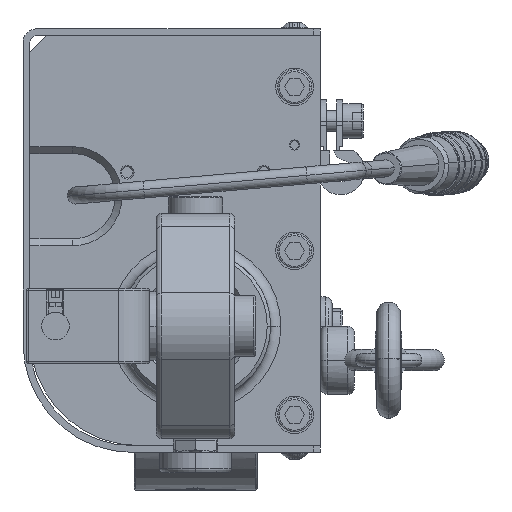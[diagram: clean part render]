
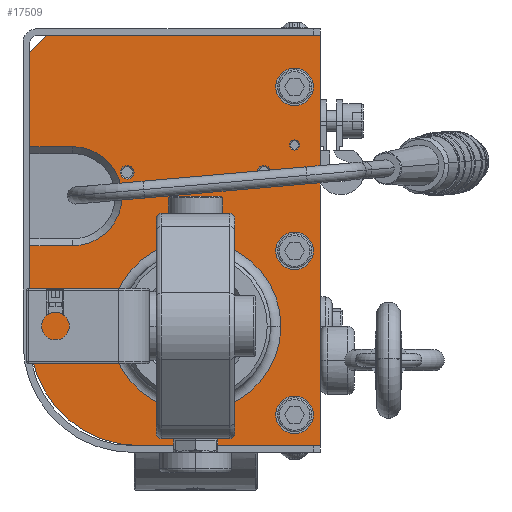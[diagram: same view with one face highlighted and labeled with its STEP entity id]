
A CAD part, left-side view. The second image highlights one B-rep face of the part: STEP entity #17509.
In plain terms, the highlighted planar face has unit normal (-1, 0, 0) as drawn and (0, 1, 0) by its records, which use the part's own axes.
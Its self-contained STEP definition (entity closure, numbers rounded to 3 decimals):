
#16222=CARTESIAN_POINT('',(-16.5,60.,3.));
#16223=DIRECTION('',(0.,-1.,0.));
#16224=DIRECTION('',(0.,0.,1.));
#16225=AXIS2_PLACEMENT_3D('',#16222,#16223,#16224);
#16227=DIRECTION('',(0.,0.,-1.));
#16228=VECTOR('',#16227,26.5);
#16229=CARTESIAN_POINT('',(-48.5,60.,3.));
#16230=LINE('',#16229,#16228);
#16231=DIRECTION('',(1.,0.,0.));
#16232=VECTOR('',#16231,12.5);
#16233=CARTESIAN_POINT('',(-48.5,60.,-23.5));
#16234=LINE('',#16233,#16232);
#16235=CARTESIAN_POINT('',(-36.,60.,-38.));
#16236=DIRECTION('',(0.,1.,0.));
#16237=DIRECTION('',(0.,0.,1.));
#16238=AXIS2_PLACEMENT_3D('',#16235,#16236,#16237);
#16240=DIRECTION('',(-1.,0.,0.));
#16241=VECTOR('',#16240,12.5);
#16242=CARTESIAN_POINT('',(-36.,60.,
-52.5));
#16243=LINE('',#16242,#16241);
#16244=DIRECTION('',(0.,0.,-1.));
#16245=VECTOR('',#16244,27.5);
#16246=CARTESIAN_POINT('',(-48.5,60.,-52.5));
#16247=LINE('',#16246,#16245);
#16248=DIRECTION('',(0.707,0.,-0.707));
#16249=VECTOR('',#16248,7.071);
#16250=CARTESIAN_POINT('',(-48.5,60.,-80.));
#16251=LINE('',#16250,#16249);
#16252=DIRECTION('',(1.,0.,0.));
#16253=VECTOR('',#16252,80.);
#16254=CARTESIAN_POINT('',(-43.5,60.,-85.));
#16255=LINE('',#16254,#16253);
#16256=DIRECTION('',(0.,0.,1.));
#16257=VECTOR('',#16256,120.);
#16258=CARTESIAN_POINT('',(36.5,60.,-85.));
#16259=LINE('',#16258,#16257);
#16260=DIRECTION('',(-1.,0.,0.));
#16261=VECTOR('',#16260,53.);
#16262=CARTESIAN_POINT('',(36.5,60.,35.));
#16263=LINE('',#16262,#16261);
#16264=CARTESIAN_POINT('',(0.,60.,0.));
#16265=DIRECTION('',(0.,1.,0.));
#16266=DIRECTION('',(1.,0.,-0.001));
#16267=AXIS2_PLACEMENT_3D('',#16264,#16265,#16266);
#16269=CARTESIAN_POINT('',(0.,60.,0.));
#16270=DIRECTION('',(0.,1.,0.));
#16271=DIRECTION('',(-1.,0.,0.001));
#16272=AXIS2_PLACEMENT_3D('',#16269,#16270,#16271);
#16274=CARTESIAN_POINT('',(29.,60.,-70.));
#16275=DIRECTION('',(0.,1.,0.));
#16276=DIRECTION('',(0.,0.,-1.));
#16277=AXIS2_PLACEMENT_3D('',#16274,#16275,#16276);
#16279=CARTESIAN_POINT('',(29.,60.,-70.));
#16280=DIRECTION('',(0.,1.,0.));
#16281=DIRECTION('',(0.,0.,1.));
#16282=AXIS2_PLACEMENT_3D('',#16279,#16280,#16281);
#16284=CARTESIAN_POINT('',(29.,60.,-22.));
#16285=DIRECTION('',(0.,1.,0.));
#16286=DIRECTION('',(0.,0.,-1.));
#16287=AXIS2_PLACEMENT_3D('',#16284,#16285,#16286);
#16289=CARTESIAN_POINT('',(29.,60.,-22.));
#16290=DIRECTION('',(0.,1.,0.));
#16291=DIRECTION('',(0.,0.,1.));
#16292=AXIS2_PLACEMENT_3D('',#16289,#16290,#16291);
#16294=CARTESIAN_POINT('',(29.,60.,26.));
#16295=DIRECTION('',(0.,1.,0.));
#16296=DIRECTION('',(0.,0.,-1.));
#16297=AXIS2_PLACEMENT_3D('',#16294,#16295,#16296);
#16299=CARTESIAN_POINT('',(29.,60.,26.));
#16300=DIRECTION('',(0.,1.,0.));
#16301=DIRECTION('',(0.,0.,1.));
#16302=AXIS2_PLACEMENT_3D('',#16299,#16300,#16301);
#16304=CARTESIAN_POINT('',(29.,60.,-43.));
#16305=DIRECTION('',(0.,1.,0.));
#16306=DIRECTION('',(1.,0.,0.));
#16307=AXIS2_PLACEMENT_3D('',#16304,#16305,#16306);
#16309=CARTESIAN_POINT('',(29.,60.,-43.));
#16310=DIRECTION('',(0.,1.,0.));
#16311=DIRECTION('',(-1.,0.,0.));
#16312=AXIS2_PLACEMENT_3D('',#16309,#16310,#16311);
#16314=CARTESIAN_POINT('',(29.,60.,-53.));
#16315=DIRECTION('',(0.,1.,0.));
#16316=DIRECTION('',(1.,0.,0.));
#16317=AXIS2_PLACEMENT_3D('',#16314,#16315,#16316);
#16319=CARTESIAN_POINT('',(29.,60.,-53.));
#16320=DIRECTION('',(0.,1.,0.));
#16321=DIRECTION('',(-1.,0.,0.));
#16322=AXIS2_PLACEMENT_3D('',#16319,#16320,#16321);
#16324=CARTESIAN_POINT('',(20.,60.,-45.));
#16325=DIRECTION('',(0.,1.,0.));
#16326=DIRECTION('',(1.,0.,0.));
#16327=AXIS2_PLACEMENT_3D('',#16324,#16325,#16326);
#16329=CARTESIAN_POINT('',(20.,60.,-45.));
#16330=DIRECTION('',(0.,1.,0.));
#16331=DIRECTION('',(-1.,0.,0.));
#16332=AXIS2_PLACEMENT_3D('',#16329,#16330,#16331);
#16334=CARTESIAN_POINT('',(-20.,60.,-45.));
#16335=DIRECTION('',(0.,1.,0.));
#16336=DIRECTION('',(1.,0.,0.));
#16337=AXIS2_PLACEMENT_3D('',#16334,#16335,#16336);
#16339=CARTESIAN_POINT('',(-20.,60.,-45.));
#16340=DIRECTION('',(0.,1.,0.));
#16341=DIRECTION('',(-1.,0.,0.));
#16342=AXIS2_PLACEMENT_3D('',#16339,#16340,#16341);
#16446=CARTESIAN_POINT('',(0.,60.,0.));
#16447=DIRECTION('',(0.,-1.,0.));
#16448=DIRECTION('',(-1.,0.,0.001));
#16449=AXIS2_PLACEMENT_3D('',#16446,#16447,#16448);
#16466=CARTESIAN_POINT('',(0.,60.,0.));
#16467=DIRECTION('',(0.,-1.,0.));
#16468=DIRECTION('',(1.,0.,-0.001));
#16469=AXIS2_PLACEMENT_3D('',#16466,#16467,#16468);
#17086=CARTESIAN_POINT('',(-16.5,60.,35.));
#17087=VERTEX_POINT('',#17086);
#17088=CARTESIAN_POINT('',(36.5,60.,35.));
#17089=VERTEX_POINT('',#17088);
#17181=CARTESIAN_POINT('',(-25.,60.,0.015));
#17182=CARTESIAN_POINT('',(24.996,60.,0.447));
#17183=VERTEX_POINT('',#17181);
#17184=VERTEX_POINT('',#17182);
#17185=CARTESIAN_POINT('',(25.,60.,-0.015));
#17186=VERTEX_POINT('',#17185);
#17187=CARTESIAN_POINT('',(-48.5,60.,3.));
#17188=VERTEX_POINT('',#17187);
#17189=CARTESIAN_POINT('',(-48.5,60.,-23.5));
#17190=VERTEX_POINT('',#17189);
#17191=CARTESIAN_POINT('',(-36.,60.,
-23.5));
#17192=VERTEX_POINT('',#17191);
#17193=CARTESIAN_POINT('',(-36.,60.,-52.5));
#17194=VERTEX_POINT('',#17193);
#17195=CARTESIAN_POINT('',(-48.5,60.,-52.5));
#17196=VERTEX_POINT('',#17195);
#17197=CARTESIAN_POINT('',(-48.5,60.,-80.));
#17198=VERTEX_POINT('',#17197);
#17199=CARTESIAN_POINT('',(-43.5,60.,-85.));
#17200=VERTEX_POINT('',#17199);
#17201=CARTESIAN_POINT('',(36.5,60.,-85.));
#17202=VERTEX_POINT('',#17201);
#17203=CARTESIAN_POINT('',(-24.996,60.,-0.447));
#17204=VERTEX_POINT('',#17203);
#17205=CARTESIAN_POINT('',(29.,60.,-75.5));
#17206=CARTESIAN_POINT('',(29.,60.,-64.5));
#17207=VERTEX_POINT('',#17205);
#17208=VERTEX_POINT('',#17206);
#17209=CARTESIAN_POINT('',(29.,60.,-27.5));
#17210=CARTESIAN_POINT('',(29.,60.,-16.5));
#17211=VERTEX_POINT('',#17209);
#17212=VERTEX_POINT('',#17210);
#17213=CARTESIAN_POINT('',(29.,60.,20.5));
#17214=CARTESIAN_POINT('',(29.,60.,31.5));
#17215=VERTEX_POINT('',#17213);
#17216=VERTEX_POINT('',#17214);
#17217=CARTESIAN_POINT('',(30.5,60.,-43.));
#17218=CARTESIAN_POINT('',(27.5,60.,-43.));
#17219=VERTEX_POINT('',#17217);
#17220=VERTEX_POINT('',#17218);
#17221=CARTESIAN_POINT('',(30.5,60.,-53.));
#17222=CARTESIAN_POINT('',(27.5,60.,-53.));
#17223=VERTEX_POINT('',#17221);
#17224=VERTEX_POINT('',#17222);
#17225=CARTESIAN_POINT('',(22.,60.,-45.));
#17226=CARTESIAN_POINT('',(18.,60.,-45.));
#17227=VERTEX_POINT('',#17225);
#17228=VERTEX_POINT('',#17226);
#17229=CARTESIAN_POINT('',(-18.,60.,-45.));
#17230=CARTESIAN_POINT('',(-22.,60.,-45.));
#17231=VERTEX_POINT('',#17229);
#17232=VERTEX_POINT('',#17230);
#17432=CARTESIAN_POINT('',(0.,60.,0.));
#17433=DIRECTION('',(0.,1.,0.));
#17434=DIRECTION('',(1.,0.,0.));
#17435=AXIS2_PLACEMENT_3D('',#17432,#17433,#17434);
#17436=PLANE('',#17435);
#17438=ORIENTED_EDGE('',*,*,#17437,.T.);
#17440=ORIENTED_EDGE('',*,*,#17439,.T.);
#17442=ORIENTED_EDGE('',*,*,#17441,.T.);
#17444=ORIENTED_EDGE('',*,*,#17443,.T.);
#17446=ORIENTED_EDGE('',*,*,#17445,.T.);
#17448=ORIENTED_EDGE('',*,*,#17447,.T.);
#17450=ORIENTED_EDGE('',*,*,#17449,.T.);
#17452=ORIENTED_EDGE('',*,*,#17451,.T.);
#17453=ORIENTED_EDGE('',*,*,#17425,.T.);
#17454=ORIENTED_EDGE('',*,*,#17324,.T.);
#17455=EDGE_LOOP('',(#17438,#17440,#17442,#17444,#17446,#17448,#17450,#17452,
#17453,#17454));
#17456=FACE_OUTER_BOUND('',#17455,.F.);
#17458=ORIENTED_EDGE('',*,*,#17457,.T.);
#17460=ORIENTED_EDGE('',*,*,#17459,.F.);
#17462=ORIENTED_EDGE('',*,*,#17461,.T.);
#17464=ORIENTED_EDGE('',*,*,#17463,.F.);
#17465=EDGE_LOOP('',(#17458,#17460,#17462,#17464));
#17466=FACE_BOUND('',#17465,.F.);
#17468=ORIENTED_EDGE('',*,*,#17467,.T.);
#17470=ORIENTED_EDGE('',*,*,#17469,.T.);
#17471=EDGE_LOOP('',(#17468,#17470));
#17472=FACE_BOUND('',#17471,.F.);
#17474=ORIENTED_EDGE('',*,*,#17473,.T.);
#17476=ORIENTED_EDGE('',*,*,#17475,.T.);
#17477=EDGE_LOOP('',(#17474,#17476));
#17478=FACE_BOUND('',#17477,.F.);
#17480=ORIENTED_EDGE('',*,*,#17479,.T.);
#17482=ORIENTED_EDGE('',*,*,#17481,.T.);
#17483=EDGE_LOOP('',(#17480,#17482));
#17484=FACE_BOUND('',#17483,.F.);
#17486=ORIENTED_EDGE('',*,*,#17485,.T.);
#17488=ORIENTED_EDGE('',*,*,#17487,.T.);
#17489=EDGE_LOOP('',(#17486,#17488));
#17490=FACE_BOUND('',#17489,.F.);
#17492=ORIENTED_EDGE('',*,*,#17491,.T.);
#17494=ORIENTED_EDGE('',*,*,#17493,.T.);
#17495=EDGE_LOOP('',(#17492,#17494));
#17496=FACE_BOUND('',#17495,.F.);
#17498=ORIENTED_EDGE('',*,*,#17497,.T.);
#17500=ORIENTED_EDGE('',*,*,#17499,.T.);
#17501=EDGE_LOOP('',(#17498,#17500));
#17502=FACE_BOUND('',#17501,.F.);
#17504=ORIENTED_EDGE('',*,*,#17503,.T.);
#17506=ORIENTED_EDGE('',*,*,#17505,.T.);
#17507=EDGE_LOOP('',(#17504,#17506));
#17508=FACE_BOUND('',#17507,.F.);
#16226=CIRCLE('',#16225,32.);
#16239=CIRCLE('',#16238,14.5);
#16268=CIRCLE('',#16267,25.);
#16273=CIRCLE('',#16272,25.);
#16278=CIRCLE('',#16277,5.5);
#16283=CIRCLE('',#16282,5.5);
#16288=CIRCLE('',#16287,5.5);
#16293=CIRCLE('',#16292,5.5);
#16298=CIRCLE('',#16297,5.5);
#16303=CIRCLE('',#16302,5.5);
#16308=CIRCLE('',#16307,1.5);
#16313=CIRCLE('',#16312,1.5);
#16318=CIRCLE('',#16317,1.5);
#16323=CIRCLE('',#16322,1.5);
#16328=CIRCLE('',#16327,2.);
#16333=CIRCLE('',#16332,2.);
#16338=CIRCLE('',#16337,2.);
#16343=CIRCLE('',#16342,2.);
#16450=CIRCLE('',#16449,25.);
#16470=CIRCLE('',#16469,25.);
#17324=EDGE_CURVE('',#17089,#17087,#16263,.T.);
#17425=EDGE_CURVE('',#17202,#17089,#16259,.T.);
#17437=EDGE_CURVE('',#17087,#17188,#16226,.T.);
#17439=EDGE_CURVE('',#17188,#17190,#16230,.T.);
#17441=EDGE_CURVE('',#17190,#17192,#16234,.T.);
#17443=EDGE_CURVE('',#17192,#17194,#16239,.T.);
#17445=EDGE_CURVE('',#17194,#17196,#16243,.T.);
#17447=EDGE_CURVE('',#17196,#17198,#16247,.T.);
#17449=EDGE_CURVE('',#17198,#17200,#16251,.T.);
#17451=EDGE_CURVE('',#17200,#17202,#16255,.T.);
#17457=EDGE_CURVE('',#17186,#17204,#16268,.T.);
#17459=EDGE_CURVE('',#17183,#17204,#16450,.T.);
#17461=EDGE_CURVE('',#17183,#17184,#16273,.T.);
#17463=EDGE_CURVE('',#17186,#17184,#16470,.T.);
#17467=EDGE_CURVE('',#17207,#17208,#16278,.T.);
#17469=EDGE_CURVE('',#17208,#17207,#16283,.T.);
#17473=EDGE_CURVE('',#17211,#17212,#16288,.T.);
#17475=EDGE_CURVE('',#17212,#17211,#16293,.T.);
#17479=EDGE_CURVE('',#17215,#17216,#16298,.T.);
#17481=EDGE_CURVE('',#17216,#17215,#16303,.T.);
#17485=EDGE_CURVE('',#17219,#17220,#16308,.T.);
#17487=EDGE_CURVE('',#17220,#17219,#16313,.T.);
#17491=EDGE_CURVE('',#17223,#17224,#16318,.T.);
#17493=EDGE_CURVE('',#17224,#17223,#16323,.T.);
#17497=EDGE_CURVE('',#17227,#17228,#16328,.T.);
#17499=EDGE_CURVE('',#17228,#17227,#16333,.T.);
#17503=EDGE_CURVE('',#17231,#17232,#16338,.T.);
#17505=EDGE_CURVE('',#17232,#17231,#16343,.T.);
#17509=ADVANCED_FACE('',(#17456,#17466,#17472,#17478,#17484,#17490,#17496,
#17502,#17508),#17436,.T.);
